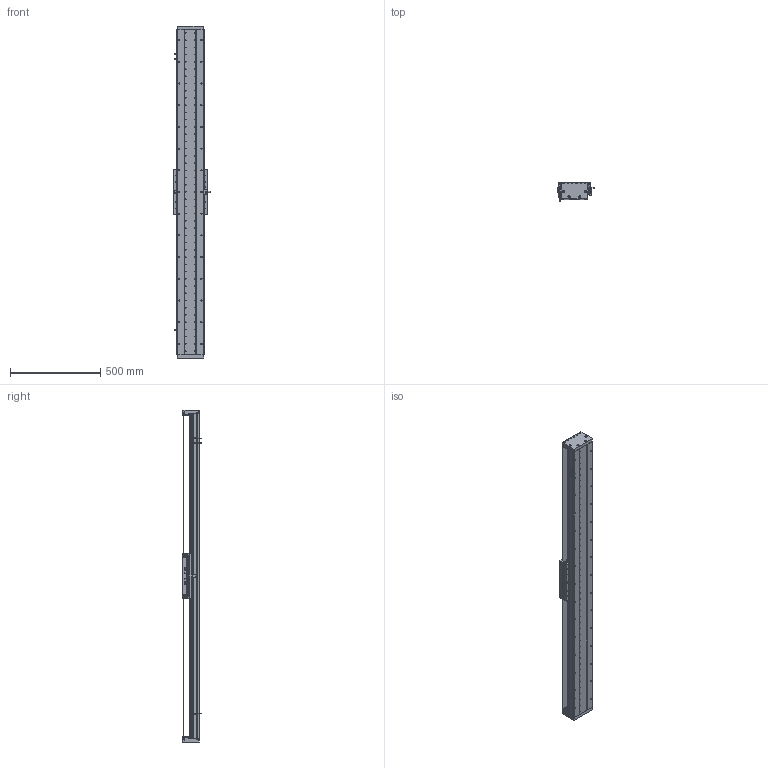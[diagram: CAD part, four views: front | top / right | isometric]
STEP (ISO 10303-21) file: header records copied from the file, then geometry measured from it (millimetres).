
FILE_DESCRIPTION (( 'STEP AP203' ), '1' );
FILE_NAME ('DA-C145-C3-T1500-C010-0.2 眻盄萇儂.STEP', '2025-08-14T01:24:56', ( '' ), ( '' ), 'SwSTEP 2.0', 'SolidWorks 2019', '' );
FILE_SCHEMA (( 'CONFIG_CONTROL_DESIGN' ));
Length unit declared in the file: millimetre
Products named in the file (32): CU145-W 幗紩賑怢; 复件 DA145 钢带^复件 CU145 钢带组件_DA-C145-C3-T-C010-0.2; 66245-CU145-HT-W-00 賑雄怢啣(3D芞祧)(00); 复件 DA145-DG 钢带端盖^复件 CU145 钢带组件_DA-C145-C3-T-C010-0.2; 葩璃 XD-U-02L 棠掑喜^DA-C145-C3-T-C010-0.2; 葩璃 DA145-C3-DP-A-00 菜えA^CU145-W 幗紩賑怢; 复件 DA145-C3-DK-00 挡块^CU145-W 滚珠滑台; 复件 纯铜油杯 6x6mm^CU145-W 滚珠滑台; 葩璃 CU145 詩湍郪璃^DA-C145-C3-T-C010-0.2; IU-CU145-L 菁釱絳寢; 葩璃 DA95-HXJ-00 遣喳砎蝶^DA-C145-C3-T-C010-0.2; 复件 DA95-DB-00  挡板^CU145-W 滚珠滑台; TAY01-M8; IU-CU145-L-00 菁釱(L1800); 葩璃 PM-T45^DA-C145-C3-T-C010-0.2; 葩璃 DA95-GT-T-00^IU-CU145-L 菁釱絳寢; 葩璃 DA145-C3-DP-B-00 菜えB^CU145-W 幗紩賑怢; DA-C145-C3-T1500-C010-0.2 眻盄萇儂; 复件 DA95-HK-GT-00 滑块钢轨^CU145-W-00 一体化滑动台板; 葩璃 CKM03-W060-C1C2-TP-0.2^DA-C145-C3-T-C010-0.2; 复件 DA145-GYP-00 光电感应片^DA-C145-C3-T-C010-0.2; 复件 DA146 钢带垫块^复件 CU145 钢带组件_DA-C145-C3-T-C010-0.2; CU145-W-00 珨极趙賑雄怢啣; 葩璃 鞠褒情蹟譫 M3^DA-C145-C3-T-C010-0.2; 复件 DA145-C3-YB-B-00 压板B^CU145-W 滚珠滑台; 复件 DA145-C3-YB-A-00 压板A^CU145-W 滚珠滑台; 葩璃 DMA-010-0.2 黍杅芛^DA-C145-C3-T-C010-0.2; 复件 半圆头内六角螺钉 M3×6^CU145-W 滚珠滑台; 复件 DA95-MFP-01 密封片^CU145-W 滚珠滑台; 复件 DA146 钢带拉块^复件 CU145 钢带组件_DA-C145-C3-T-C010-0.2; 复件 内六角平端紧定螺钉 GB.T77-2000 M5×10^CU145-W 滚珠滑台; 葩璃 CKMA01-W060-TRL^DA-C145-C3-T-C010-0.2
Assembly tree (103 placements, depth 4):
  DA-C145-C3-T1500-C010-0.2 眻盄萇儂
    IU-CU145-L 菁釱絳寢
      IU-CU145-L-00 菁釱(L1800)
      葩璃 DA95-GT-T-00^IU-CU145-L 菁釱絳寢  x4
    葩璃 CU145 詩湍郪璃^DA-C145-C3-T-C010-0.2
      复件 DA145-DG 钢带端盖^复件 CU145 钢带组件_DA-C145-C3-T-C010-0.2  x2
      复件 DA146 钢带拉块^复件 CU145 钢带组件_DA-C145-C3-T-C010-0.2  x2
      复件 DA146 钢带垫块^复件 CU145 钢带组件_DA-C145-C3-T-C010-0.2  x2
      复件 DA145 钢带^复件 CU145 钢带组件_DA-C145-C3-T-C010-0.2
    CU145-W 幗紩賑怢
      CU145-W-00 珨极趙賑雄怢啣
        66245-CU145-HT-W-00 賑雄怢啣(3D芞祧)(00)
        复件 DA95-HK-GT-00 滑块钢轨^CU145-W-00 一体化滑动台板  x8
      复件 DA95-MFP-01 密封片^CU145-W 滚珠滑台  x8
      复件 DA95-DB-00  挡板^CU145-W 滚珠滑台  x8
      复件 内六角平端紧定螺钉 GB.T77-2000 M5×10^CU145-W 滚珠滑台  x4
      复件 纯铜油杯 6x6mm^CU145-W 滚珠滑台  x4
      复件 半圆头内六角螺钉 M3×6^CU145-W 滚珠滑台  x16
      复件 DA145-C3-DK-00 挡块^CU145-W 滚珠滑台  x4
      葩璃 DA145-C3-DP-B-00 菜えB^CU145-W 幗紩賑怢  x2
      复件 DA145-C3-YB-B-00 压板B^CU145-W 滚珠滑台  x2
      葩璃 DA145-C3-DP-A-00 菜えA^CU145-W 幗紩賑怢  x3
      复件 DA145-C3-YB-A-00 压板A^CU145-W 滚珠滑台  x3
      TAY01-M8  x4
    葩璃 CKMA01-W060-TRL^DA-C145-C3-T-C010-0.2
    葩璃 PM-T45^DA-C145-C3-T-C010-0.2  x3
    葩璃 XD-U-02L 棠掑喜^DA-C145-C3-T-C010-0.2
    葩璃 DA95-HXJ-00 遣喳砎蝶^DA-C145-C3-T-C010-0.2  x4
    复件 DA145-GYP-00 光电感应片^DA-C145-C3-T-C010-0.2
    葩璃 DMA-010-0.2 黍杅芛^DA-C145-C3-T-C010-0.2
    葩璃 CKM03-W060-C1C2-TP-0.2^DA-C145-C3-T-C010-0.2
    葩璃 鞠褒情蹟譫 M3^DA-C145-C3-T-C010-0.2  x8
Bounding box: 203.5 x 108.45 x 1836 mm (x, y, z)
Volume: 9352439.2 mm3; surface area: 3019548.6 mm2
Topology: 99 solids, 131 shells, 4340 faces, 11954 edges, 7434 vertices
Faces by surface type: cylinder 1990, plane 1582, cone 690, torus 74, sphere 4
Entity records: 108700 total; most frequent: CARTESIAN_POINT 29940, ORIENTED_EDGE 15428, DIRECTION 15217, EDGE_CURVE 7714, AXIS2_PLACEMENT_3D 5702, VERTEX_POINT 4973, VECTOR 3813, LINE 3813
